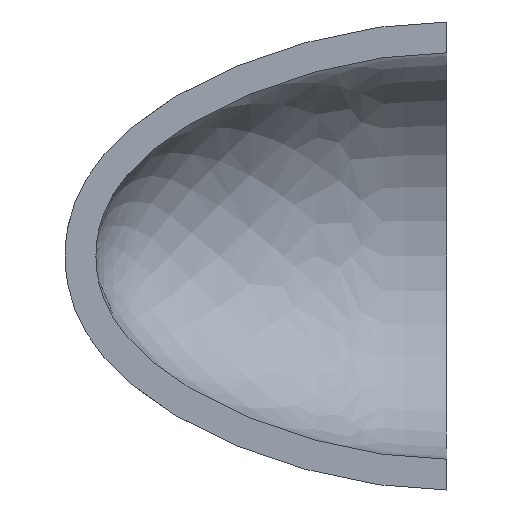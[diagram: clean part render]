
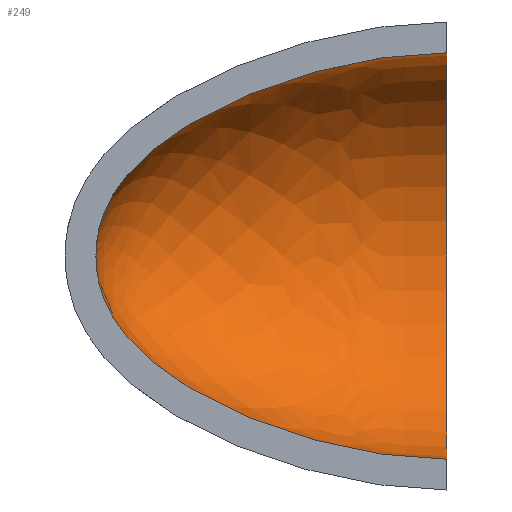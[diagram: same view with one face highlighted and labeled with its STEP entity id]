
A CAD part, left-side view. The second image highlights one B-rep face of the part: STEP entity #249.
In plain terms, the highlighted face is a revolution surface.
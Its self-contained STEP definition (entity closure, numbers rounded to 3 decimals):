
#100=CARTESIAN_POINT('Axis2P3D Location',(0.,0.,0.)) ;
#104=CARTESIAN_POINT('Vertex',(0.,0.,66.)) ;
#106=CARTESIAN_POINT('Vertex',(0.,0.,-66.)) ;
#132=CARTESIAN_POINT('Control Point',(0.,0.,-66.)) ;
#133=CARTESIAN_POINT('Control Point',(0.,3.019,-66.)) ;
#134=CARTESIAN_POINT('Control Point',(0.,6.082,-65.906)) ;
#135=CARTESIAN_POINT('Control Point',(0.,9.184,-65.72)) ;
#136=CARTESIAN_POINT('Control Point',(0.,15.731,-65.15)) ;
#137=CARTESIAN_POINT('Control Point',(0.,22.389,-64.215)) ;
#138=CARTESIAN_POINT('Control Point',(0.,25.881,-63.633)) ;
#139=CARTESIAN_POINT('Control Point',(0.,33.643,-62.141)) ;
#140=CARTESIAN_POINT('Control Point',(0.,41.425,-60.215)) ;
#141=CARTESIAN_POINT('Control Point',(0.,45.684,-59.032)) ;
#142=CARTESIAN_POINT('Control Point',(0.,54.04,-56.451)) ;
#143=CARTESIAN_POINT('Control Point',(0.,62.234,-53.383)) ;
#144=CARTESIAN_POINT('Control Point',(0.,66.219,-51.751)) ;
#145=CARTESIAN_POINT('Control Point',(0.,73.49,-48.492)) ;
#146=CARTESIAN_POINT('Control Point',(0.,80.423,-44.799)) ;
#147=CARTESIAN_POINT('Control Point',(0.,83.539,-42.998)) ;
#148=CARTESIAN_POINT('Control Point',(0.,88.605,-39.802)) ;
#149=CARTESIAN_POINT('Control Point',(0.,93.302,-36.326)) ;
#150=CARTESIAN_POINT('Control Point',(0.,95.141,-34.868)) ;
#151=CARTESIAN_POINT('Control Point',(0.,98.471,-32.025)) ;
#152=CARTESIAN_POINT('Control Point',(0.,101.49,-29.019)) ;
#153=CARTESIAN_POINT('Control Point',(0.,102.837,-27.568)) ;
#154=CARTESIAN_POINT('Control Point',(0.,105.271,-24.709)) ;
#155=CARTESIAN_POINT('Control Point',(0.,107.378,-21.731)) ;
#156=CARTESIAN_POINT('Control Point',(0.,108.31,-20.273)) ;
#157=CARTESIAN_POINT('Control Point',(0.,109.977,-17.357)) ;
#158=CARTESIAN_POINT('Control Point',(0.,111.311,-14.346)) ;
#159=CARTESIAN_POINT('Control Point',(0.,111.883,-12.843)) ;
#160=CARTESIAN_POINT('Control Point',(0.,112.853,-9.817)) ;
#161=CARTESIAN_POINT('Control Point',(0.,113.494,-6.689)) ;
#162=CARTESIAN_POINT('Control Point',(0.,113.73,-5.112)) ;
#163=CARTESIAN_POINT('Control Point',(0.,113.92,-3.142)) ;
#164=CARTESIAN_POINT('Control Point',(0.,113.987,-1.131)) ;
#165=CARTESIAN_POINT('Control Point',(0.,113.996,-0.755)) ;
#166=CARTESIAN_POINT('Control Point',(0.,114.,-0.378)) ;
#167=CARTESIAN_POINT('Control Point',(0.,114.,0.)) ;
#168=CARTESIAN_POINT('Vertex',(0.,114.,0.)) ;
#172=CARTESIAN_POINT('Control Point',(0.,0.,66.)) ;
#173=CARTESIAN_POINT('Control Point',(0.,3.019,66.)) ;
#174=CARTESIAN_POINT('Control Point',(0.,6.082,65.906)) ;
#175=CARTESIAN_POINT('Control Point',(0.,9.184,65.72)) ;
#176=CARTESIAN_POINT('Control Point',(0.,15.731,65.15)) ;
#177=CARTESIAN_POINT('Control Point',(0.,22.389,64.215)) ;
#178=CARTESIAN_POINT('Control Point',(0.,25.881,63.633)) ;
#179=CARTESIAN_POINT('Control Point',(0.,33.643,62.141)) ;
#180=CARTESIAN_POINT('Control Point',(0.,41.425,60.215)) ;
#181=CARTESIAN_POINT('Control Point',(0.,45.684,59.032)) ;
#182=CARTESIAN_POINT('Control Point',(0.,54.04,56.451)) ;
#183=CARTESIAN_POINT('Control Point',(0.,62.234,53.383)) ;
#184=CARTESIAN_POINT('Control Point',(0.,66.219,51.751)) ;
#185=CARTESIAN_POINT('Control Point',(0.,73.49,48.492)) ;
#186=CARTESIAN_POINT('Control Point',(0.,80.423,44.799)) ;
#187=CARTESIAN_POINT('Control Point',(0.,83.539,42.998)) ;
#188=CARTESIAN_POINT('Control Point',(0.,88.605,39.802)) ;
#189=CARTESIAN_POINT('Control Point',(0.,93.302,36.326)) ;
#190=CARTESIAN_POINT('Control Point',(0.,95.141,34.868)) ;
#191=CARTESIAN_POINT('Control Point',(0.,98.471,32.025)) ;
#192=CARTESIAN_POINT('Control Point',(0.,101.49,29.019)) ;
#193=CARTESIAN_POINT('Control Point',(0.,102.837,27.568)) ;
#194=CARTESIAN_POINT('Control Point',(0.,105.271,24.709)) ;
#195=CARTESIAN_POINT('Control Point',(0.,107.378,21.731)) ;
#196=CARTESIAN_POINT('Control Point',(0.,108.31,20.273)) ;
#197=CARTESIAN_POINT('Control Point',(0.,109.977,17.357)) ;
#198=CARTESIAN_POINT('Control Point',(0.,111.311,14.346)) ;
#199=CARTESIAN_POINT('Control Point',(0.,111.883,12.843)) ;
#200=CARTESIAN_POINT('Control Point',(0.,112.853,9.817)) ;
#201=CARTESIAN_POINT('Control Point',(0.,113.494,6.689)) ;
#202=CARTESIAN_POINT('Control Point',(0.,113.73,5.112)) ;
#203=CARTESIAN_POINT('Control Point',(0.,113.92,3.142)) ;
#204=CARTESIAN_POINT('Control Point',(0.,113.987,1.131)) ;
#205=CARTESIAN_POINT('Control Point',(0.,113.996,0.755)) ;
#206=CARTESIAN_POINT('Control Point',(0.,114.,0.378)) ;
#207=CARTESIAN_POINT('Control Point',(0.,114.,0.)) ;
#219=CARTESIAN_POINT('Control Point',(0.,0.,66.)) ;
#220=CARTESIAN_POINT('Control Point',(0.,6.715,66.)) ;
#221=CARTESIAN_POINT('Control Point',(0.,13.831,65.533)) ;
#222=CARTESIAN_POINT('Control Point',(0.,21.348,64.583)) ;
#223=CARTESIAN_POINT('Control Point',(0.,36.931,61.718)) ;
#224=CARTESIAN_POINT('Control Point',(0.,52.931,56.978)) ;
#225=CARTESIAN_POINT('Control Point',(0.,60.864,54.155)) ;
#226=CARTESIAN_POINT('Control Point',(0.,72.329,49.276)) ;
#227=CARTESIAN_POINT('Control Point',(0.,82.648,43.54)) ;
#228=CARTESIAN_POINT('Control Point',(0.,85.933,41.539)) ;
#229=CARTESIAN_POINT('Control Point',(0.,92.14,37.374)) ;
#230=CARTESIAN_POINT('Control Point',(0.,97.53,32.922)) ;
#231=CARTESIAN_POINT('Control Point',(0.,99.998,30.634)) ;
#232=CARTESIAN_POINT('Control Point',(0.,104.445,25.959)) ;
#233=CARTESIAN_POINT('Control Point',(0.,107.89,21.113)) ;
#234=CARTESIAN_POINT('Control Point',(0.,109.356,18.655)) ;
#235=CARTESIAN_POINT('Control Point',(0.,111.79,13.665)) ;
#236=CARTESIAN_POINT('Control Point',(0.,113.251,8.441)) ;
#237=CARTESIAN_POINT('Control Point',(0.,113.746,5.751)) ;
#238=CARTESIAN_POINT('Control Point',(0.,114.,2.945)) ;
#239=CARTESIAN_POINT('Control Point',(0.,114.,0.)) ;
#240=CARTESIAN_POINT('Axis1P Location',(0.,0.,0.)) ;
#101=DIRECTION('Axis2P3D Direction',(0.,1.,0.)) ;
#241=DIRECTION('Axis1P Direction',(0.,1.,0.)) ;
#102=AXIS2_PLACEMENT_3D('Circle Axis2P3D',#100,#101,$) ;
#245=ORIENTED_EDGE('',*,*,#108,.F.) ;
#246=ORIENTED_EDGE('',*,*,#208,.T.) ;
#247=ORIENTED_EDGE('',*,*,#170,.F.) ;
#249=ADVANCED_FACE('PartBody',(#248),#243,.F.) ;
#242=AXIS1_PLACEMENT('Revolution Surface Axis1P',#240,#241) ;
#131=B_SPLINE_CURVE_WITH_KNOTS('',5,(#132,#133,#134,#135,#136,#137,#138,#139,#140,#141,#142,#143,#144,#145,#146,#147,#148,#149,#150,#151,#152,#153,#154,#155,#156,#157,#158,#159,#160,#161,#162,#163,#164,#165,#166,#167),.UNSPECIFIED.,.F.,.U.,(6,3,3,3,3,3,3,3,3,3,3,6),(0.,22.25,46.48,75.911,104.551,129.138,145.948,160.92,174.784,188.167,201.317,204.322),.UNSPECIFIED.) ;
#171=B_SPLINE_CURVE_WITH_KNOTS('',5,(#172,#173,#174,#175,#176,#177,#178,#179,#180,#181,#182,#183,#184,#185,#186,#187,#188,#189,#190,#191,#192,#193,#194,#195,#196,#197,#198,#199,#200,#201,#202,#203,#204,#205,#206,#207),.UNSPECIFIED.,.F.,.U.,(6,3,3,3,3,3,3,3,3,3,3,6),(0.,22.25,46.48,75.911,104.551,129.138,145.948,160.92,174.784,188.167,201.317,204.322),.UNSPECIFIED.) ;
#218=B_SPLINE_CURVE_WITH_KNOTS('',5,(#219,#220,#221,#222,#223,#224,#225,#226,#227,#228,#229,#230,#231,#232,#233,#234,#235,#236,#237,#238,#239),.UNSPECIFIED.,.F.,.U.,(6,3,3,3,3,3,6),(0.,36.359,72.719,90.898,109.078,127.258,145.437),.UNSPECIFIED.) ;
#103=CIRCLE('generated circle',#102,66.) ;
#108=EDGE_CURVE('',#105,#107,#103,.T.) ;
#170=EDGE_CURVE('',#107,#169,#131,.T.) ;
#208=EDGE_CURVE('',#105,#169,#171,.T.) ;
#244=EDGE_LOOP('',(#245,#246,#247)) ;
#248=FACE_OUTER_BOUND('',#244,.T.) ;
#243=SURFACE_OF_REVOLUTION('Surface of Revolution',#218,#242) ;
#105=VERTEX_POINT('',#104) ;
#107=VERTEX_POINT('',#106) ;
#169=VERTEX_POINT('',#168) ;
